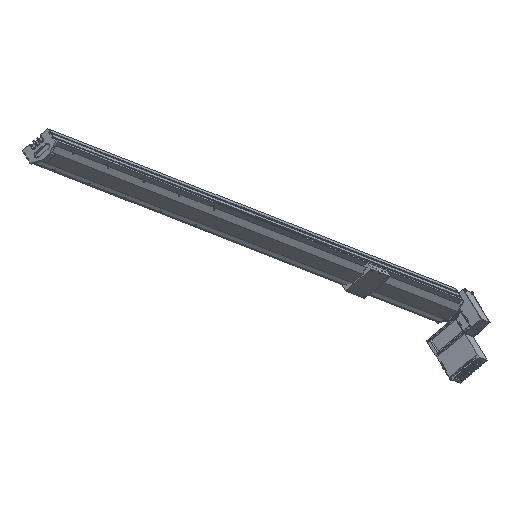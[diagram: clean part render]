
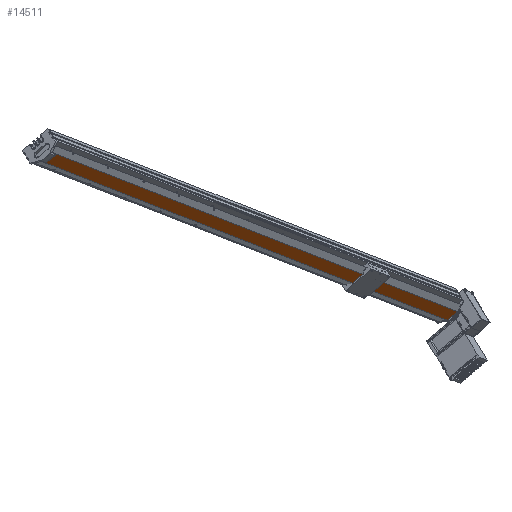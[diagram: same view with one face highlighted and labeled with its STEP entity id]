
A CAD part, top view. The second image highlights one B-rep face of the part: STEP entity #14511.
In plain terms, the highlighted planar face has unit normal (0.464, -0.763, 0.45) as drawn and (0, 1, 0) by its records, which use the part's own axes.
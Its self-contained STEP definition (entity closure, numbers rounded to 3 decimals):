
#3858 = CARTESIAN_POINT ( 'NONE',  ( 20., 61.75, 0. ) ) ;
#4053 = CARTESIAN_POINT ( 'NONE',  ( 20., 61.75, 5.114 ) ) ;
#4560 = DIRECTION ( 'NONE',  ( 0., 0., -1. ) ) ;
#4561 = VECTOR ( 'NONE', #4560, 1000. ) ;
#4562 = CARTESIAN_POINT ( 'NONE',  ( 20., 61.75, 2300. ) ) ;
#4563 = LINE ( 'NONE', #4562, #4561 ) ;
#7860 = PLANE ( 'NONE',  #8040 ) ;
#7861 = FACE_OUTER_BOUND ( 'NONE', #14670, .T. ) ;
#7914 = VECTOR ( 'NONE', #8167, 1000. ) ;
#8032 = CARTESIAN_POINT ( 'NONE',  ( -20., 61.75, 2300. ) ) ;
#8034 = LINE ( 'NONE', #8032, #8053 ) ;
#8040 = AXIS2_PLACEMENT_3D ( 'NONE', #8207, #8192, #8191 ) ;
#8051 = DIRECTION ( 'NONE',  ( 0., 0., -1. ) ) ;
#8053 = VECTOR ( 'NONE', #8051, 1000. ) ;
#8081 = CARTESIAN_POINT ( 'NONE',  ( -20., 61.75, 0. ) ) ;
#8134 = CARTESIAN_POINT ( 'NONE',  ( 20., 61.75, 2300. ) ) ;
#8141 = CARTESIAN_POINT ( 'NONE',  ( -20., 61.75, 2300. ) ) ;
#8167 = DIRECTION ( 'NONE',  ( -1., 0., 0. ) ) ;
#8191 = DIRECTION ( 'NONE',  ( 0., 0., -1. ) ) ;
#8192 = DIRECTION ( 'NONE',  ( 0., -1., 0. ) ) ;
#8202 = CARTESIAN_POINT ( 'NONE',  ( 20., 61.75, 0. ) ) ;
#8204 = LINE ( 'NONE', #8202, #7914 ) ;
#8207 = CARTESIAN_POINT ( 'NONE',  ( 20., 61.75, 2300. ) ) ;
#8217 = CARTESIAN_POINT ( 'NONE',  ( 20., 61.75, 2300. ) ) ;
#8218 = LINE ( 'NONE', #8217, #8363 ) ;
#8284 = DIRECTION ( 'NONE',  ( -1., 0., 0. ) ) ;
#8323 = DIRECTION ( 'NONE',  ( 0., 0., -1. ) ) ;
#8324 = VECTOR ( 'NONE', #8323, 1000. ) ;
#8341 = CARTESIAN_POINT ( 'NONE',  ( 20., 61.75, 2300. ) ) ;
#8342 = LINE ( 'NONE', #8341, #8324 ) ;
#8363 = VECTOR ( 'NONE', #8284, 1000. ) ;
#13002 = VERTEX_POINT ( 'NONE', #3858 ) ;
#13146 = VERTEX_POINT ( 'NONE', #4053 ) ;
#13216 = EDGE_CURVE ( 'NONE', #13146, #13002, #4563, .T. ) ;
#14499 = EDGE_CURVE ( 'NONE', #13002, #14507, #8204, .T. ) ;
#14500 = VERTEX_POINT ( 'NONE', #8134 ) ;
#14505 = EDGE_CURVE ( 'NONE', #14513, #14507, #8034, .T. ) ;
#14507 = VERTEX_POINT ( 'NONE', #8081 ) ;
#14511 = ADVANCED_FACE ( 'NONE', ( #7861 ), #7860, .F. ) ;
#14512 = ORIENTED_EDGE ( 'NONE', *, *, #14505, .F. ) ;
#14513 = VERTEX_POINT ( 'NONE', #8141 ) ;
#14639 = EDGE_CURVE ( 'NONE', #14500, #13146, #8342, .T. ) ;
#14646 = ORIENTED_EDGE ( 'NONE', *, *, #14499, .T. ) ;
#14670 = EDGE_LOOP ( 'NONE', ( #14646, #14512, #14718, #14686, #14681 ) ) ;
#14681 = ORIENTED_EDGE ( 'NONE', *, *, #13216, .T. ) ;
#14683 = EDGE_CURVE ( 'NONE', #14500, #14513, #8218, .T. ) ;
#14686 = ORIENTED_EDGE ( 'NONE', *, *, #14639, .T. ) ;
#14718 = ORIENTED_EDGE ( 'NONE', *, *, #14683, .F. ) ;
